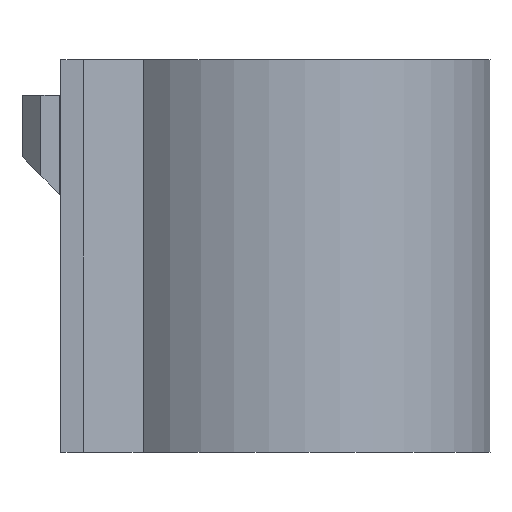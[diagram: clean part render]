
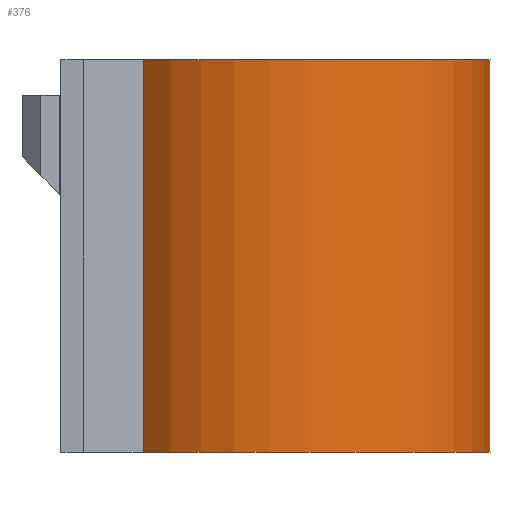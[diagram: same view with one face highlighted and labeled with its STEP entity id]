
A CAD part, front view. The second image highlights one B-rep face of the part: STEP entity #376.
In plain terms, the highlighted cylindrical face has radius 27 mm (diameter 54 mm), a partial arc.
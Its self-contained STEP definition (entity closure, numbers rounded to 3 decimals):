
#21=LINE('',#557,#67);
#22=LINE('',#563,#68);
#67=VECTOR('',#453,10.);
#68=VECTOR('',#460,10.);
#110=CYLINDRICAL_SURFACE('',#414,27.);
#115=FACE_OUTER_BOUND('',#137,.T.);
#137=EDGE_LOOP('',(#259,#260,#261,#262));
#160=CIRCLE('',#415,27.);
#161=CIRCLE('',#416,27.);
#167=VERTEX_POINT('',#551);
#169=VERTEX_POINT('',#555);
#170=VERTEX_POINT('',#559);
#171=VERTEX_POINT('',#561);
#204=EDGE_CURVE('',#167,#169,#21,.T.);
#205=EDGE_CURVE('',#167,#170,#160,.T.);
#206=EDGE_CURVE('',#171,#169,#161,.T.);
#207=EDGE_CURVE('',#170,#171,#22,.T.);
#259=ORIENTED_EDGE('',*,*,#205,.F.);
#260=ORIENTED_EDGE('',*,*,#204,.T.);
#261=ORIENTED_EDGE('',*,*,#206,.F.);
#262=ORIENTED_EDGE('',*,*,#207,.F.);
#376=ADVANCED_FACE('',(#115),#110,.T.);
#414=AXIS2_PLACEMENT_3D('',#558,#454,#455);
#415=AXIS2_PLACEMENT_3D('',#560,#456,#457);
#416=AXIS2_PLACEMENT_3D('',#562,#458,#459);
#453=DIRECTION('',(0.,0.,-1.));
#454=DIRECTION('center_axis',(0.,0.,-1.));
#455=DIRECTION('ref_axis',(1.,0.,0.));
#456=DIRECTION('center_axis',(0.,0.,1.));
#457=DIRECTION('ref_axis',(-1.,0.,0.));
#458=DIRECTION('center_axis',(0.,0.,-1.));
#459=DIRECTION('ref_axis',(-1.,0.,0.));
#460=DIRECTION('',(0.,0.,-1.));
#551=CARTESIAN_POINT('',(107.058,-19.092,-184.298));
#555=CARTESIAN_POINT('',(107.058,-19.092,-236.298));
#557=CARTESIAN_POINT('',(107.058,-19.092,-184.298));
#558=CARTESIAN_POINT('Origin',(126.15,0.,-184.298));
#559=CARTESIAN_POINT('',(107.058,19.092,-184.298));
#560=CARTESIAN_POINT('Origin',(126.15,0.,-184.298));
#561=CARTESIAN_POINT('',(107.058,19.092,-236.298));
#562=CARTESIAN_POINT('Origin',(126.15,0.,-236.298));
#563=CARTESIAN_POINT('',(107.058,19.092,-184.298));
